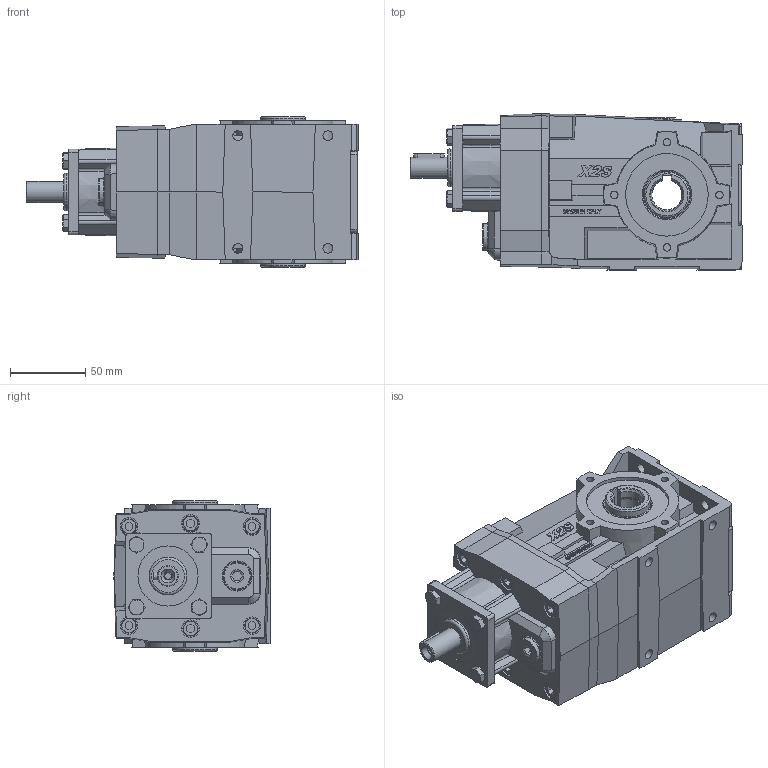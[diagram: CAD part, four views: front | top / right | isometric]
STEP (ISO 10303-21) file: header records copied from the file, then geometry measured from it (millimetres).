
FILE_DESCRIPTION( ( 'Unknown' ), '1' );
FILE_NAME( 'E:/services/configuratordownloads/customers/HYDROMEC/X/download/EB79D3D14695E2BB4ABEF94EC55FEFEC/STEP/EB79D3D14695E2BB4ABEF94EC55FEFEC.3d.stp', 'Unknown', ( 'Unknown' ), ( 'Unknown' ), 'PSStep 10.1', 'Unknown', ' ' );
FILE_SCHEMA( ( 'AUTOMOTIVE_DESIGN { 1 0 10303 214 1 1 1 1 }' ) );
Length unit declared in the file: millimetre
Products named in the file (1): X2S8800
Bounding box: 221 x 104 x 100 mm (x, y, z)
Volume: 1338546.7 mm3; surface area: 128882.8 mm2
Topology: 1 solids, 22 shells, 950 faces, 2351 edges, 1549 vertices
Faces by surface type: plane 698, cone 112, cylinder 97, extrusion 20, bspline 12, torus 11
Full cylindrical faces by diameter (mm): 4.134 x9, 4.917 x8, 5 x9, 5.3 x1, 5.5 x4, 6.5 x4, 6.6 x4, 10 x14, 11.5 x3, 13 x1, 13.5 x1, 14 x1, 18 x1, 19 x1, 20 x1, 23 x1, 25 x1, 30.05 x2, 40 x1, 45.5 x1, 55 x2
Entity records: 37776 total; most frequent: CARTESIAN_POINT 8577, ORIENTED_EDGE 4334, DIRECTION 4193, EDGE_CURVE 2167, VECTOR 1527, LINE 1507, VERTEX_POINT 1494, AXIS2_PLACEMENT_3D 1333
